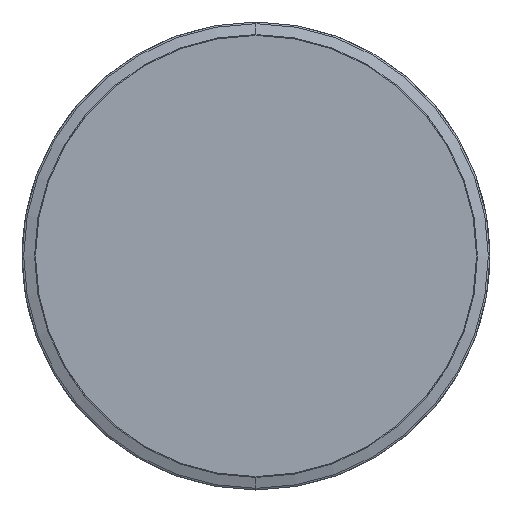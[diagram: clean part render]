
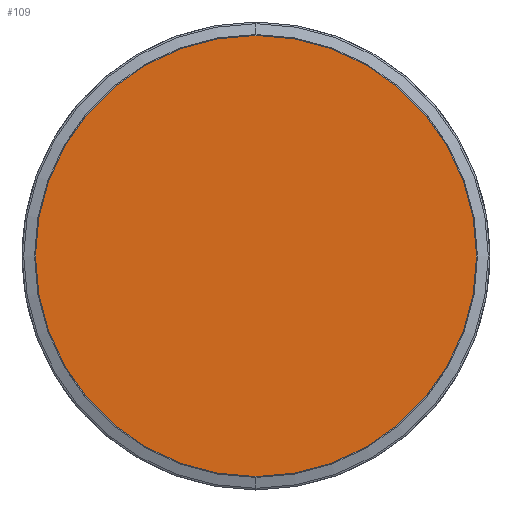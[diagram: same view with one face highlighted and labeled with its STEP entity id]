
A CAD part, front view. The second image highlights one B-rep face of the part: STEP entity #109.
In plain terms, the highlighted free-form (B-spline) face has degree [1, 1] with [2, 2] control points.
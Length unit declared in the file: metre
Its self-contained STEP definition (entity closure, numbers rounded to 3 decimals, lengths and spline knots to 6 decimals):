
#109 = ADVANCED_FACE( '', ( #177 ), #178, .F. );
#177 = FACE_OUTER_BOUND( '', #658, .T. );
#178 = B_SPLINE_SURFACE_WITH_KNOTS( '', 1, 1, ( ( #659, #660 ), ( #661, #662 ) ), .UNSPECIFIED., .F., .F., .F., ( 2, 2 ), ( 2, 2 ), ( 0., 1. ), ( 0., 1. ), .UNSPECIFIED. );
#658 = EDGE_LOOP( '', ( #837, #838 ) );
#659 = CARTESIAN_POINT( '', ( -0.017168, 0., -0.017168 ) );
#660 = CARTESIAN_POINT( '', ( 0.017168, 0., -0.017168 ) );
#661 = CARTESIAN_POINT( '', ( -0.017168, 0., 0.017168 ) );
#662 = CARTESIAN_POINT( '', ( 0.017168, 0., 0.017168 ) );
#837 = ORIENTED_EDGE( '', *, *, #899, .F. );
#838 = ORIENTED_EDGE( '', *, *, #844, .F. );
#844 = EDGE_CURVE( '', #912, #907, #914, .T. );
#899 = EDGE_CURVE( '', #907, #912, #997, .T. );
#907 = VERTEX_POINT( '', #1005 );
#912 = VERTEX_POINT( '', #1020 );
#914 = CIRCLE( '', #1032, 0.016965 );
#997 = CIRCLE( '', #1247, 0.016965 );
#1005 = CARTESIAN_POINT( '', ( 0., 0., 0.016965 ) );
#1020 = CARTESIAN_POINT( '', ( 0., 0., -0.016965 ) );
#1032 = AXIS2_PLACEMENT_3D( '', #1280, #1281, #1282 );
#1247 = AXIS2_PLACEMENT_3D( '', #1385, #1386, #1387 );
#1280 = CARTESIAN_POINT( '', ( 0., 0., 0. ) );
#1281 = DIRECTION( '', ( 0., 1., 0. ) );
#1282 = DIRECTION( '', ( -1., 0., 0. ) );
#1385 = CARTESIAN_POINT( '', ( 0., 0., 0. ) );
#1386 = DIRECTION( '', ( 0., 1., 0. ) );
#1387 = DIRECTION( '', ( -1., 0., 0. ) );
